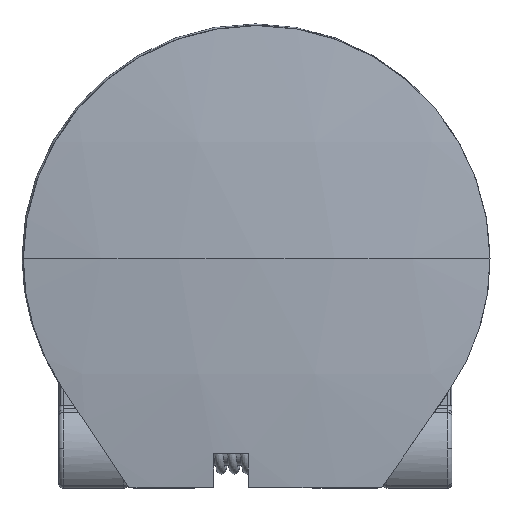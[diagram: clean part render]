
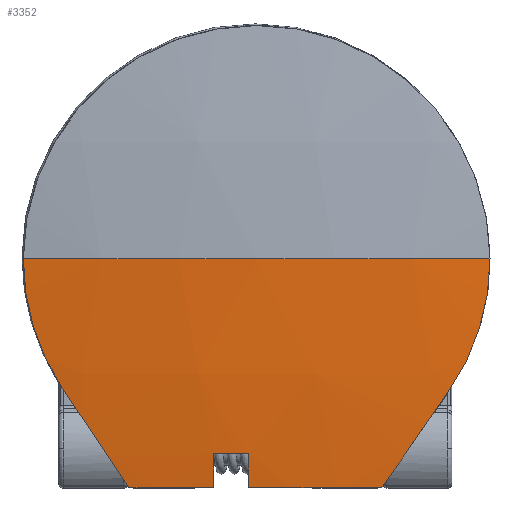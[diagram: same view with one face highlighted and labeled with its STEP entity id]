
A CAD part, top view. The second image highlights one B-rep face of the part: STEP entity #3352.
In plain terms, the highlighted spherical face has radius 101.325 mm.
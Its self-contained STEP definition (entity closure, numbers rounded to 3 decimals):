
#135 = CIRCLE ( 'NONE', #12083, 100.425 ) ;
#175 = EDGE_CURVE ( 'NONE', #7832, #2030, #17066, .T. ) ;
#195 = CIRCLE ( 'NONE', #15976, 13.475 ) ;
#266 = CARTESIAN_POINT ( 'NONE',  ( 0., 0., 2.35 ) ) ;
#440 = CARTESIAN_POINT ( 'NONE',  ( 0., 0., -98.975 ) ) ;
#458 = CARTESIAN_POINT ( 'NONE',  ( -13.475, 0., 1.45 ) ) ;
#548 = FACE_OUTER_BOUND ( 'NONE', #16122, .T. ) ;
#912 = VERTEX_POINT ( 'NONE', #8547 ) ;
#1096 = DIRECTION ( 'NONE',  ( -1., 0., 0. ) ) ;
#1222 = AXIS2_PLACEMENT_3D ( 'NONE', #440, #1650, #9654 ) ;
#1249 = DIRECTION ( 'NONE',  ( 0., 0., 1. ) ) ;
#1408 = CARTESIAN_POINT ( 'NONE',  ( -11.209, -7.479, -98.975 ) ) ;
#1591 = DIRECTION ( 'NONE',  ( 0., 0., 1. ) ) ;
#1650 = DIRECTION ( 'NONE',  ( 0., -1., 0. ) ) ;
#1796 = EDGE_CURVE ( 'NONE', #8637, #2030, #195, .T. ) ;
#2030 = VERTEX_POINT ( 'NONE', #10425 ) ;
#2045 = VERTEX_POINT ( 'NONE', #12939 ) ;
#2310 = AXIS2_PLACEMENT_3D ( 'NONE', #9160, #13148, #1249 ) ;
#2587 = CIRCLE ( 'NONE', #15874, 101.295 ) ;
#2605 = EDGE_CURVE ( 'NONE', #8637, #17043, #3318, .T. ) ;
#2900 = CARTESIAN_POINT ( 'NONE',  ( 0., 0., -98.975 ) ) ;
#2926 = DIRECTION ( 'NONE',  ( -1., 0., 0. ) ) ;
#3102 = DIRECTION ( 'NONE',  ( 0., 0., -1. ) ) ;
#3298 = DIRECTION ( 'NONE',  ( 0., 1., 0. ) ) ;
#3318 = CIRCLE ( 'NONE', #12466, 101.325 ) ;
#3352 = ADVANCED_FACE ( 'NONE', ( #548 ), #14781, .T. ) ;
#3758 = DIRECTION ( 'NONE',  ( 0., 0., 1. ) ) ;
#3891 = CARTESIAN_POINT ( 'NONE',  ( 0., -13.225, -98.975 ) ) ;
#4507 = AXIS2_PLACEMENT_3D ( 'NONE', #3891, #14541, #14298 ) ;
#4693 = DIRECTION ( 'NONE',  ( 0., 0., -1. ) ) ;
#4905 = AXIS2_PLACEMENT_3D ( 'NONE', #1408, #13398, #1591 ) ;
#5775 = DIRECTION ( 'NONE',  ( 0., 1., 0. ) ) ;
#6039 = ORIENTED_EDGE ( 'NONE', *, *, #14149, .T. ) ;
#6187 = DIRECTION ( 'NONE',  ( 1., 0., 0. ) ) ;
#6638 = ORIENTED_EDGE ( 'NONE', *, *, #1796, .T. ) ;
#6652 = CARTESIAN_POINT ( 'NONE',  ( -7.375, -13.225, 1.212 ) ) ;
#6810 = CIRCLE ( 'NONE', #8194, 101.324 ) ;
#7189 = VERTEX_POINT ( 'NONE', #13175 ) ;
#7195 = EDGE_CURVE ( 'NONE', #7977, #7832, #13358, .T. ) ;
#7352 = CARTESIAN_POINT ( 'NONE',  ( 11.071, -7.681, 1.45 ) ) ;
#7581 = CARTESIAN_POINT ( 'NONE',  ( -0.475, 0., -98.975 ) ) ;
#7832 = VERTEX_POINT ( 'NONE', #6652 ) ;
#7977 = VERTEX_POINT ( 'NONE', #16249 ) ;
#8134 = EDGE_CURVE ( 'NONE', #7977, #11429, #2587, .T. ) ;
#8194 = AXIS2_PLACEMENT_3D ( 'NONE', #7581, #6187, #11397 ) ;
#8241 = VERTEX_POINT ( 'NONE', #7352 ) ;
#8317 = CARTESIAN_POINT ( 'NONE',  ( -2.475, 0., -98.975 ) ) ;
#8457 = AXIS2_PLACEMENT_3D ( 'NONE', #10006, #3758, #11655 ) ;
#8476 = ORIENTED_EDGE ( 'NONE', *, *, #7195, .F. ) ;
#8527 = CARTESIAN_POINT ( 'NONE',  ( 0., 0., 1.45 ) ) ;
#8547 = CARTESIAN_POINT ( 'NONE',  ( -0.475, -11.225, 1.725 ) ) ;
#8637 = VERTEX_POINT ( 'NONE', #458 ) ;
#8837 = ORIENTED_EDGE ( 'NONE', *, *, #175, .F. ) ;
#8941 = DIRECTION ( 'NONE',  ( 0.822, -0.57, 0. ) ) ;
#9008 = ORIENTED_EDGE ( 'NONE', *, *, #15004, .T. ) ;
#9014 = CIRCLE ( 'NONE', #1222, 101.325 ) ;
#9037 = DIRECTION ( 'NONE',  ( 0.822, -0.57, 0. ) ) ;
#9160 = CARTESIAN_POINT ( 'NONE',  ( 0., -13.225, -98.975 ) ) ;
#9183 = EDGE_CURVE ( 'NONE', #9428, #7189, #9812, .T. ) ;
#9428 = VERTEX_POINT ( 'NONE', #10811 ) ;
#9469 = ORIENTED_EDGE ( 'NONE', *, *, #8134, .T. ) ;
#9654 = DIRECTION ( 'NONE',  ( 0., 0., -1. ) ) ;
#9812 = CIRCLE ( 'NONE', #2310, 100.459 ) ;
#10006 = CARTESIAN_POINT ( 'NONE',  ( 0., 0., 1.45 ) ) ;
#10241 = CARTESIAN_POINT ( 'NONE',  ( 11.071, -7.681, -98.975 ) ) ;
#10304 = CARTESIAN_POINT ( 'NONE',  ( -2.475, -11.225, 1.696 ) ) ;
#10425 = CARTESIAN_POINT ( 'NONE',  ( -11.209, -7.479, 1.45 ) ) ;
#10658 = ORIENTED_EDGE ( 'NONE', *, *, #9183, .F. ) ;
#10811 = CARTESIAN_POINT ( 'NONE',  ( 7.225, -13.225, 1.223 ) ) ;
#11178 = CIRCLE ( 'NONE', #14763, 100.702 ) ;
#11379 = DIRECTION ( 'NONE',  ( 0., 0., 1. ) ) ;
#11397 = DIRECTION ( 'NONE',  ( 0., 0., 1. ) ) ;
#11429 = VERTEX_POINT ( 'NONE', #10304 ) ;
#11655 = DIRECTION ( 'NONE',  ( 0.822, -0.57, 0. ) ) ;
#11886 = ORIENTED_EDGE ( 'NONE', *, *, #12799, .T. ) ;
#12083 = AXIS2_PLACEMENT_3D ( 'NONE', #10241, #8941, #15514 ) ;
#12466 = AXIS2_PLACEMENT_3D ( 'NONE', #15583, #15499, #1096 ) ;
#12748 = ORIENTED_EDGE ( 'NONE', *, *, #14896, .T. ) ;
#12799 = EDGE_CURVE ( 'NONE', #11429, #912, #11178, .T. ) ;
#12939 = CARTESIAN_POINT ( 'NONE',  ( 13.475, 0., 1.45 ) ) ;
#13148 = DIRECTION ( 'NONE',  ( 0., -1., 0. ) ) ;
#13175 = CARTESIAN_POINT ( 'NONE',  ( -0.475, -13.225, 1.482 ) ) ;
#13358 = CIRCLE ( 'NONE', #4507, 100.459 ) ;
#13398 = DIRECTION ( 'NONE',  ( -0.832, -0.555, 0. ) ) ;
#13402 = DIRECTION ( 'NONE',  ( 1., 0., 0. ) ) ;
#13882 = CARTESIAN_POINT ( 'NONE',  ( 0., -11.225, -98.975 ) ) ;
#14149 = EDGE_CURVE ( 'NONE', #2045, #17043, #9014, .T. ) ;
#14298 = DIRECTION ( 'NONE',  ( 0., 0., 1. ) ) ;
#14407 = AXIS2_PLACEMENT_3D ( 'NONE', #2900, #5775, #13402 ) ;
#14541 = DIRECTION ( 'NONE',  ( 0., -1., 0. ) ) ;
#14763 = AXIS2_PLACEMENT_3D ( 'NONE', #13882, #3298, #4693 ) ;
#14781 = SPHERICAL_SURFACE ( 'NONE', #14407, 101.325 ) ;
#14896 = EDGE_CURVE ( 'NONE', #8241, #2045, #16729, .T. ) ;
#15004 = EDGE_CURVE ( 'NONE', #912, #7189, #6810, .T. ) ;
#15473 = ORIENTED_EDGE ( 'NONE', *, *, #15937, .F. ) ;
#15499 = DIRECTION ( 'NONE',  ( 0., 1., 0. ) ) ;
#15514 = DIRECTION ( 'NONE',  ( 0., 0., 1. ) ) ;
#15583 = CARTESIAN_POINT ( 'NONE',  ( 0., 0., -98.975 ) ) ;
#15874 = AXIS2_PLACEMENT_3D ( 'NONE', #8317, #2926, #3102 ) ;
#15937 = EDGE_CURVE ( 'NONE', #8241, #9428, #135, .T. ) ;
#15976 = AXIS2_PLACEMENT_3D ( 'NONE', #8527, #11379, #9037 ) ;
#16122 = EDGE_LOOP ( 'NONE', ( #17037, #6638, #8837, #8476, #9469, #11886, #9008, #10658, #15473, #12748, #6039 ) ) ;
#16249 = CARTESIAN_POINT ( 'NONE',  ( -2.475, -13.225, 1.453 ) ) ;
#16729 = CIRCLE ( 'NONE', #8457, 13.475 ) ;
#17037 = ORIENTED_EDGE ( 'NONE', *, *, #2605, .F. ) ;
#17043 = VERTEX_POINT ( 'NONE', #266 ) ;
#17066 = CIRCLE ( 'NONE', #4905, 100.425 ) ;
